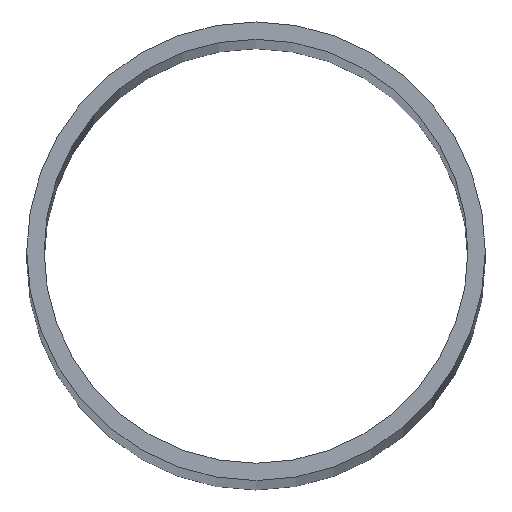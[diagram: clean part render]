
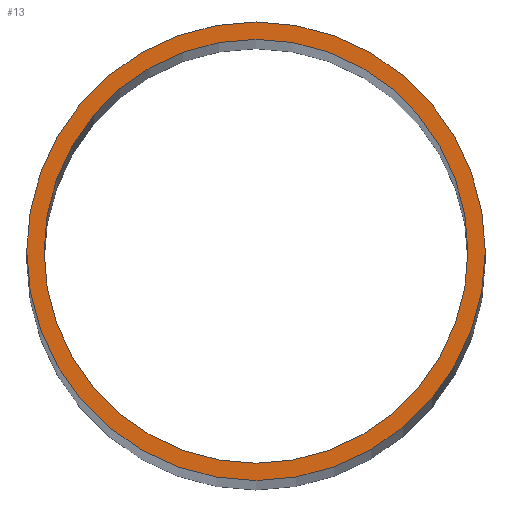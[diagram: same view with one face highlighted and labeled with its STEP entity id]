
A CAD part, top view. The second image highlights one B-rep face of the part: STEP entity #13.
In plain terms, the highlighted planar face has unit normal (0, 0, 1).
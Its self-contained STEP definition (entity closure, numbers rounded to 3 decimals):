
#4 = DIRECTION ( 'NONE',  ( 1., 0., 0. ) ) ;
#13 = ADVANCED_FACE ( 'NONE', ( #97, #95 ), #106, .T. ) ;
#14 = VERTEX_POINT ( 'NONE', #90 ) ;
#20 = ORIENTED_EDGE ( 'NONE', *, *, #63, .F. ) ;
#21 = ORIENTED_EDGE ( 'NONE', *, *, #52, .F. ) ;
#24 = EDGE_LOOP ( 'NONE', ( #58, #45 ) ) ;
#32 = EDGE_CURVE ( 'NONE', #51, #14, #120, .T. ) ;
#45 = ORIENTED_EDGE ( 'NONE', *, *, #32, .T. ) ;
#51 = VERTEX_POINT ( 'NONE', #125 ) ;
#52 = EDGE_CURVE ( 'NONE', #72, #57, #153, .T. ) ;
#53 = EDGE_CURVE ( 'NONE', #14, #51, #130, .T. ) ;
#57 = VERTEX_POINT ( 'NONE', #201 ) ;
#58 = ORIENTED_EDGE ( 'NONE', *, *, #53, .T. ) ;
#63 = EDGE_CURVE ( 'NONE', #57, #72, #194, .T. ) ;
#64 = EDGE_LOOP ( 'NONE', ( #21, #20 ) ) ;
#72 = VERTEX_POINT ( 'NONE', #177 ) ;
#90 = CARTESIAN_POINT ( 'NONE',  ( -21.2, 0., 500. ) ) ;
#92 = DIRECTION ( 'NONE',  ( 1., 0., 0. ) ) ;
#93 = DIRECTION ( 'NONE',  ( 0., 0., 1. ) ) ;
#95 = FACE_BOUND ( 'NONE', #64, .T. ) ;
#97 = FACE_OUTER_BOUND ( 'NONE', #24, .T. ) ;
#98 = CARTESIAN_POINT ( 'NONE',  ( 0., 0., 500. ) ) ;
#106 = PLANE ( 'NONE',  #107 ) ;
#107 = AXIS2_PLACEMENT_3D ( 'NONE', #98, #93, #92 ) ;
#111 = DIRECTION ( 'NONE',  ( 0., 0., 1. ) ) ;
#112 = CARTESIAN_POINT ( 'NONE',  ( 0., 0., 500. ) ) ;
#114 = AXIS2_PLACEMENT_3D ( 'NONE', #112, #111, #119 ) ;
#119 = DIRECTION ( 'NONE',  ( 1., 0., 0. ) ) ;
#120 = CIRCLE ( 'NONE', #114, 21.2 ) ;
#124 = AXIS2_PLACEMENT_3D ( 'NONE', #155, #154, #4 ) ;
#125 = CARTESIAN_POINT ( 'NONE',  ( 21.2, 0., 500. ) ) ;
#130 = CIRCLE ( 'NONE', #124, 21.2 ) ;
#149 = DIRECTION ( 'NONE',  ( 1., 0., 0. ) ) ;
#150 = DIRECTION ( 'NONE',  ( 0., 0., 1. ) ) ;
#151 = CARTESIAN_POINT ( 'NONE',  ( 0., 0., 500. ) ) ;
#152 = AXIS2_PLACEMENT_3D ( 'NONE', #151, #150, #149 ) ;
#153 = CIRCLE ( 'NONE', #152, 19.6 ) ;
#154 = DIRECTION ( 'NONE',  ( 0., 0., 1. ) ) ;
#155 = CARTESIAN_POINT ( 'NONE',  ( 0., 0., 500. ) ) ;
#177 = CARTESIAN_POINT ( 'NONE',  ( -19.6, 0., 500. ) ) ;
#182 = DIRECTION ( 'NONE',  ( 1., 0., 0. ) ) ;
#194 = CIRCLE ( 'NONE', #197, 19.6 ) ;
#196 = CARTESIAN_POINT ( 'NONE',  ( 0., 0., 500. ) ) ;
#197 = AXIS2_PLACEMENT_3D ( 'NONE', #196, #203, #182 ) ;
#201 = CARTESIAN_POINT ( 'NONE',  ( 19.6, 0., 500. ) ) ;
#203 = DIRECTION ( 'NONE',  ( 0., 0., 1. ) ) ;
